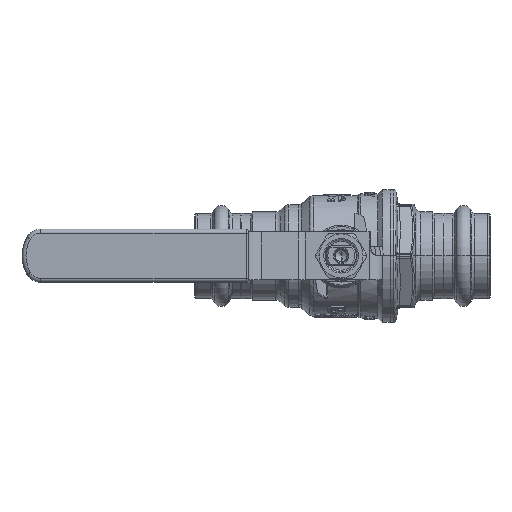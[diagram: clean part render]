
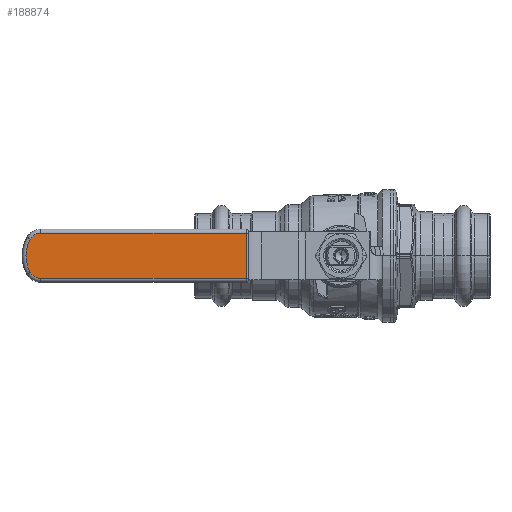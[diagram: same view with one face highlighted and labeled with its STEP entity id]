
A CAD part, top view. The second image highlights one B-rep face of the part: STEP entity #188874.
In plain terms, the highlighted planar face has unit normal (0, 0, 1).
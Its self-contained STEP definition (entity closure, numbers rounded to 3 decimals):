
#187895 = CYLINDRICAL_SURFACE('',#187896,0.7);
#187896 = AXIS2_PLACEMENT_3D('',#187897,#187898,#187899);
#187897 = CARTESIAN_POINT('',(-35.7,-12.577,59.344));
#187898 = DIRECTION('',(0.,-1.,0.));
#187899 = DIRECTION('',(0.,0.,1.));
#188395 = VERTEX_POINT('',#188396);
#188396 = CARTESIAN_POINT('',(-35.7,-12.711,60.044));
#188418 = EDGE_CURVE('',#188395,#188419,#188421,.T.);
#188419 = VERTEX_POINT('',#188420);
#188420 = CARTESIAN_POINT('',(-35.7,-29.711,60.044));
#188421 = SURFACE_CURVE('',#188422,(#188426,#188433),.PCURVE_S1.);
#188422 = LINE('',#188423,#188424);
#188423 = CARTESIAN_POINT('',(-35.7,-12.711,60.044));
#188424 = VECTOR('',#188425,1.);
#188425 = DIRECTION('',(0.,-1.,0.));
#188426 = PCURVE('',#187895,#188427);
#188427 = DEFINITIONAL_REPRESENTATION('',(#188428),#188432);
#188428 = LINE('',#188429,#188430);
#188429 = CARTESIAN_POINT('',(6.283,0.135));
#188430 = VECTOR('',#188431,1.);
#188431 = DIRECTION('',(0.,1.));
#188432 = ( GEOMETRIC_REPRESENTATION_CONTEXT(2) 
PARAMETRIC_REPRESENTATION_CONTEXT() REPRESENTATION_CONTEXT('2D SPACE',''
  ) );
#188433 = PCURVE('',#188434,#188439);
#188434 = PLANE('',#188435);
#188435 = AXIS2_PLACEMENT_3D('',#188436,#188437,#188438);
#188436 = CARTESIAN_POINT('',(-120.,-11.211,60.044));
#188437 = DIRECTION('',(0.,0.,1.));
#188438 = DIRECTION('',(0.,-1.,0.));
#188439 = DEFINITIONAL_REPRESENTATION('',(#188440),#188444);
#188440 = LINE('',#188441,#188442);
#188441 = CARTESIAN_POINT('',(1.5,84.3));
#188442 = VECTOR('',#188443,1.);
#188443 = DIRECTION('',(1.,0.));
#188444 = ( GEOMETRIC_REPRESENTATION_CONTEXT(2) 
PARAMETRIC_REPRESENTATION_CONTEXT() REPRESENTATION_CONTEXT('2D SPACE',''
  ) );
#188490 = CYLINDRICAL_SURFACE('',#188491,1.5);
#188491 = AXIS2_PLACEMENT_3D('',#188492,#188493,#188494);
#188492 = CARTESIAN_POINT('',(-113.045,-29.711,
    58.544));
#188493 = DIRECTION('',(1.,0.,0.));
#188494 = DIRECTION('',(0.,-1.,0.));
#188784 = TOROIDAL_SURFACE('',#188785,4.5,1.5);
#188785 = AXIS2_PLACEMENT_3D('',#188786,#188787,#188788);
#188786 = CARTESIAN_POINT('',(-112.928,-25.211,
    58.544));
#188787 = DIRECTION('',(0.,0.,-1.));
#188788 = DIRECTION('',(-0.882,-0.472,
    0.));
#188800 = VERTEX_POINT('',#188801);
#188801 = CARTESIAN_POINT('',(-116.825,-27.461,
    60.044));
#188816 = TOROIDAL_SURFACE('',#188817,12.5,1.5);
#188817 = AXIS2_PLACEMENT_3D('',#188818,#188819,#188820);
#188818 = CARTESIAN_POINT('',(-106.,-21.211,58.544));
#188819 = DIRECTION('',(0.,0.,1.));
#188820 = DIRECTION('',(-0.861,0.508,0.)
  );
#188830 = VERTEX_POINT('',#188831);
#188831 = CARTESIAN_POINT('',(-112.928,-29.711,
    60.044));
#188853 = EDGE_CURVE('',#188800,#188830,#188854,.T.);
#188854 = SURFACE_CURVE('',#188855,(#188860,#188867),.PCURVE_S1.);
#188855 = CIRCLE('',#188856,4.5);
#188856 = AXIS2_PLACEMENT_3D('',#188857,#188858,#188859);
#188857 = CARTESIAN_POINT('',(-112.928,-25.211,
    60.044));
#188858 = DIRECTION('',(0.,0.,1.));
#188859 = DIRECTION('',(-0.866,-0.5,0.));
#188860 = PCURVE('',#188784,#188861);
#188861 = DEFINITIONAL_REPRESENTATION('',(#188862),#188866);
#188862 = LINE('',#188863,#188864);
#188863 = CARTESIAN_POINT('',(6.251,4.712));
#188864 = VECTOR('',#188865,1.);
#188865 = DIRECTION('',(-1.,0.));
#188866 = ( GEOMETRIC_REPRESENTATION_CONTEXT(2) 
PARAMETRIC_REPRESENTATION_CONTEXT() REPRESENTATION_CONTEXT('2D SPACE',''
  ) );
#188867 = PCURVE('',#188434,#188868);
#188868 = DEFINITIONAL_REPRESENTATION('',(#188869),#188873);
#188869 = CIRCLE('',#188870,4.5);
#188870 = AXIS2_PLACEMENT_2D('',#188871,#188872);
#188871 = CARTESIAN_POINT('',(14.,7.072));
#188872 = DIRECTION('',(0.5,-0.866));
#188873 = ( GEOMETRIC_REPRESENTATION_CONTEXT(2) 
PARAMETRIC_REPRESENTATION_CONTEXT() REPRESENTATION_CONTEXT('2D SPACE',''
  ) );
#188874 = ADVANCED_FACE('',(#188875),#188434,.T.);
#188875 = FACE_BOUND('',#188876,.T.);
#188876 = EDGE_LOOP('',(#188877,#188905,#188934,#188956,#188957,#188978)
  );
#188877 = ORIENTED_EDGE('',*,*,#188878,.T.);
#188878 = EDGE_CURVE('',#188395,#188879,#188881,.T.);
#188879 = VERTEX_POINT('',#188880);
#188880 = CARTESIAN_POINT('',(-112.928,-12.711,
    60.044));
#188881 = SURFACE_CURVE('',#188882,(#188886,#188893),.PCURVE_S1.);
#188882 = LINE('',#188883,#188884);
#188883 = CARTESIAN_POINT('',(-35.7,-12.711,60.044));
#188884 = VECTOR('',#188885,1.);
#188885 = DIRECTION('',(-1.,0.,0.));
#188886 = PCURVE('',#188434,#188887);
#188887 = DEFINITIONAL_REPRESENTATION('',(#188888),#188892);
#188888 = LINE('',#188889,#188890);
#188889 = CARTESIAN_POINT('',(1.5,84.3));
#188890 = VECTOR('',#188891,1.);
#188891 = DIRECTION('',(0.,-1.));
#188892 = ( GEOMETRIC_REPRESENTATION_CONTEXT(2) 
PARAMETRIC_REPRESENTATION_CONTEXT() REPRESENTATION_CONTEXT('2D SPACE',''
  ) );
#188893 = PCURVE('',#188894,#188899);
#188894 = CYLINDRICAL_SURFACE('',#188895,1.5);
#188895 = AXIS2_PLACEMENT_3D('',#188896,#188897,#188898);
#188896 = CARTESIAN_POINT('',(-34.863,-12.711,
    58.544));
#188897 = DIRECTION('',(-1.,0.,0.));
#188898 = DIRECTION('',(0.,1.,0.));
#188899 = DEFINITIONAL_REPRESENTATION('',(#188900),#188904);
#188900 = LINE('',#188901,#188902);
#188901 = CARTESIAN_POINT('',(4.712,0.837));
#188902 = VECTOR('',#188903,1.);
#188903 = DIRECTION('',(0.,1.));
#188904 = ( GEOMETRIC_REPRESENTATION_CONTEXT(2) 
PARAMETRIC_REPRESENTATION_CONTEXT() REPRESENTATION_CONTEXT('2D SPACE',''
  ) );
#188905 = ORIENTED_EDGE('',*,*,#188906,.T.);
#188906 = EDGE_CURVE('',#188879,#188907,#188909,.T.);
#188907 = VERTEX_POINT('',#188908);
#188908 = CARTESIAN_POINT('',(-116.825,-14.961,
    60.044));
#188909 = SURFACE_CURVE('',#188910,(#188915,#188922),.PCURVE_S1.);
#188910 = CIRCLE('',#188911,4.5);
#188911 = AXIS2_PLACEMENT_3D('',#188912,#188913,#188914);
#188912 = CARTESIAN_POINT('',(-112.928,-17.211,
    60.044));
#188913 = DIRECTION('',(0.,0.,1.));
#188914 = DIRECTION('',(0.,1.,0.));
#188915 = PCURVE('',#188434,#188916);
#188916 = DEFINITIONAL_REPRESENTATION('',(#188917),#188921);
#188917 = CIRCLE('',#188918,4.5);
#188918 = AXIS2_PLACEMENT_2D('',#188919,#188920);
#188919 = CARTESIAN_POINT('',(6.,7.072));
#188920 = DIRECTION('',(-1.,0.));
#188921 = ( GEOMETRIC_REPRESENTATION_CONTEXT(2) 
PARAMETRIC_REPRESENTATION_CONTEXT() REPRESENTATION_CONTEXT('2D SPACE',''
  ) );
#188922 = PCURVE('',#188923,#188928);
#188923 = TOROIDAL_SURFACE('',#188924,4.5,1.5);
#188924 = AXIS2_PLACEMENT_3D('',#188925,#188926,#188927);
#188925 = CARTESIAN_POINT('',(-112.928,-17.211,
    58.544));
#188926 = DIRECTION('',(0.,0.,1.));
#188927 = DIRECTION('',(0.022,1.,
    0.));
#188928 = DEFINITIONAL_REPRESENTATION('',(#188929),#188933);
#188929 = LINE('',#188930,#188931);
#188930 = CARTESIAN_POINT('',(0.022,1.571));
#188931 = VECTOR('',#188932,1.);
#188932 = DIRECTION('',(1.,0.));
#188933 = ( GEOMETRIC_REPRESENTATION_CONTEXT(2) 
PARAMETRIC_REPRESENTATION_CONTEXT() REPRESENTATION_CONTEXT('2D SPACE',''
  ) );
#188934 = ORIENTED_EDGE('',*,*,#188935,.T.);
#188935 = EDGE_CURVE('',#188907,#188800,#188936,.T.);
#188936 = SURFACE_CURVE('',#188937,(#188942,#188949),.PCURVE_S1.);
#188937 = CIRCLE('',#188938,12.5);
#188938 = AXIS2_PLACEMENT_3D('',#188939,#188940,#188941);
#188939 = CARTESIAN_POINT('',(-106.,-21.211,60.044));
#188940 = DIRECTION('',(0.,0.,1.));
#188941 = DIRECTION('',(-0.866,0.5,0.));
#188942 = PCURVE('',#188434,#188943);
#188943 = DEFINITIONAL_REPRESENTATION('',(#188944),#188948);
#188944 = CIRCLE('',#188945,12.5);
#188945 = AXIS2_PLACEMENT_2D('',#188946,#188947);
#188946 = CARTESIAN_POINT('',(10.,14.));
#188947 = DIRECTION('',(-0.5,-0.866));
#188948 = ( GEOMETRIC_REPRESENTATION_CONTEXT(2) 
PARAMETRIC_REPRESENTATION_CONTEXT() REPRESENTATION_CONTEXT('2D SPACE',''
  ) );
#188949 = PCURVE('',#188816,#188950);
#188950 = DEFINITIONAL_REPRESENTATION('',(#188951),#188955);
#188951 = LINE('',#188952,#188953);
#188952 = CARTESIAN_POINT('',(0.01,1.571));
#188953 = VECTOR('',#188954,1.);
#188954 = DIRECTION('',(1.,0.));
#188955 = ( GEOMETRIC_REPRESENTATION_CONTEXT(2) 
PARAMETRIC_REPRESENTATION_CONTEXT() REPRESENTATION_CONTEXT('2D SPACE',''
  ) );
#188956 = ORIENTED_EDGE('',*,*,#188853,.T.);
#188957 = ORIENTED_EDGE('',*,*,#188958,.T.);
#188958 = EDGE_CURVE('',#188830,#188419,#188959,.T.);
#188959 = SURFACE_CURVE('',#188960,(#188964,#188971),.PCURVE_S1.);
#188960 = LINE('',#188961,#188962);
#188961 = CARTESIAN_POINT('',(-112.928,-29.711,
    60.044));
#188962 = VECTOR('',#188963,1.);
#188963 = DIRECTION('',(1.,0.,0.));
#188964 = PCURVE('',#188434,#188965);
#188965 = DEFINITIONAL_REPRESENTATION('',(#188966),#188970);
#188966 = LINE('',#188967,#188968);
#188967 = CARTESIAN_POINT('',(18.5,7.072));
#188968 = VECTOR('',#188969,1.);
#188969 = DIRECTION('',(0.,1.));
#188970 = ( GEOMETRIC_REPRESENTATION_CONTEXT(2) 
PARAMETRIC_REPRESENTATION_CONTEXT() REPRESENTATION_CONTEXT('2D SPACE',''
  ) );
#188971 = PCURVE('',#188490,#188972);
#188972 = DEFINITIONAL_REPRESENTATION('',(#188973),#188977);
#188973 = LINE('',#188974,#188975);
#188974 = CARTESIAN_POINT('',(4.712,0.117));
#188975 = VECTOR('',#188976,1.);
#188976 = DIRECTION('',(0.,1.));
#188977 = ( GEOMETRIC_REPRESENTATION_CONTEXT(2) 
PARAMETRIC_REPRESENTATION_CONTEXT() REPRESENTATION_CONTEXT('2D SPACE',''
  ) );
#188978 = ORIENTED_EDGE('',*,*,#188418,.F.);
